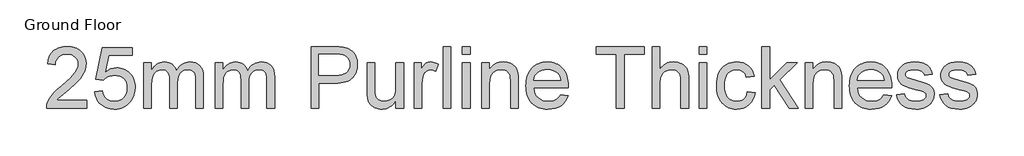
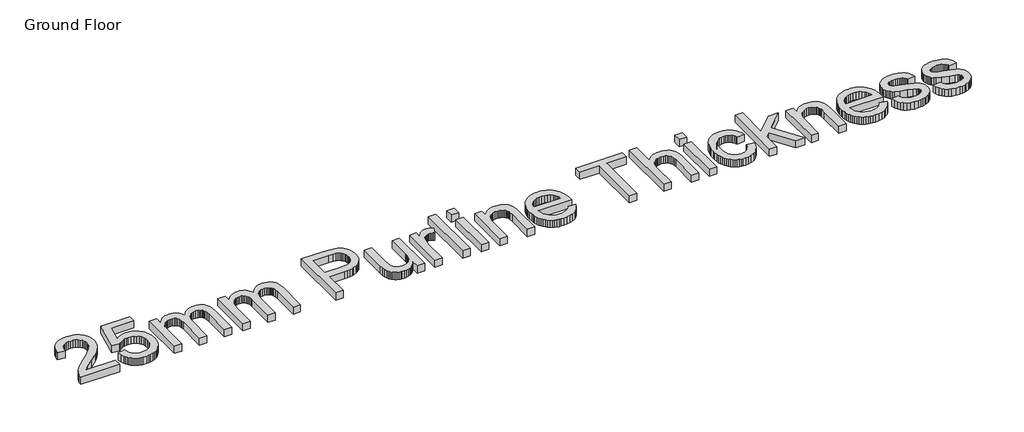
# One storey, part 5 of 5: 1 proxy.
"""IFC4 building model written with IfcOpenShell, lengths in millimetres."""

from ifc_helpers import new_model, si_unit, origin, origin_with_axes, place, context, project, spatial, polyline, outline, extrude, element, save

model = new_model("IFC4")

# Units and contexts
model_context = context("Model", 3, world=origin())
ifc_project = project(units=[si_unit("LENGTHUNIT", "METRE", prefix="MILLI")], contexts=[model_context])

# Site, building, storey
site = spatial("IfcSite", under=ifc_project)
building = spatial("IfcBuilding", under=site)
storey = spatial("IfcBuildingStorey", under=building, Name="Ground Floor", Elevation=0.0)

# Proxy
placement = place(None, origin())
element("IfcBuildingElementProxy", 1, Name="1200mm Arial", ObjectType="1200mm Arial", at=placement, inside=storey, context=model_context, shape_type="SweptSolid", body=[
    extrude(outline(polyline([(-50930.0074937, 10658.042718), (-50930.0074937, 10511.1336271), (-51701.280221, 10511.1336271), (-51698.052238, 10562.8530874), (-51685.498971, 10612.420559), (-51669.4845889, 10652.2951151), (-51649.2738289, 10691.5778743), (-51624.8666911, 10730.2688367), (-51596.2631755, 10768.3680021), (-51561.7416911, 10807.3638296), (-51519.5806471, 10848.7447777), (-51412.3398801, 10938.6620362), (-51325.1484738, 11013.6767734), (-51253.8100505, 11079.473826), (-51198.3246102, 11136.0531939), (-51158.6921528, 11183.4148771), (-51130.9494326, 11225.8807862), (-51111.1332039, 11267.7728317), (-51099.2434667, 11309.0910135), (-51095.280221, 11349.8353317), (-51099.0193012, 11388.1676293), (-51110.236542, 11423.3974766), (-51128.9319433, 11455.5248736), (-51155.1055051, 11484.5498203), (-51187.304635, 11508.5893267), (-51224.0767409, 11525.7604027), (-51265.4218225, 11536.0630483), (-51311.3398801, 11539.4972635), (-51359.7147913, 11536.1437479), (-51402.9787295, 11526.083201), (-51441.1316947, 11509.3156229), (-51474.1736869, 11485.8410135), (-51500.9031791, 11456.4484354), (-51520.1186443, 11421.926951), (-51531.8200825, 11382.2765604), (-51536.0074937, 11337.4972635), (-51682.9165846, 11355.8608999), (-51670.282618, 11431.7005661), (-51660.0853302, 11466.0292681), (-51647.3011727, 11497.9638828), (-51631.9301455, 11527.5044102), (-51613.9722487, 11554.6508502), (-51593.4274822, 11579.4032028), (-51570.295846, 11601.761468), (-51544.8284054, 11621.6001133), (-51517.2762259, 11638.7936058), (-51487.6393074, 11653.3419457), (-51455.9176499, 11665.2451328), (-51386.220118, 11681.116049), (-51308.1836301, 11686.4063544), (-51229.4477458, 11680.5242521), (-51193.3279616, 11673.1716243), (-51159.3736159, 11662.8779453), (-51127.5847087, 11649.6432152), (-51097.9612401, 11633.467434), (-51070.5032101, 11614.3506016), (-51045.2106187, 11592.292718), (-51022.5138635, 11568.055946), (-51002.8433424, 11542.4024482), (-50986.1990553, 11515.3322244), (-50972.5810022, 11486.8452749), (-50961.9891831, 11456.9415994), (-50954.4235981, 11425.6211982), (-50948.3711301, 11358.730218), (-50950.0030548, 11323.446571), (-50954.8988289, 11288.4677891), (-50963.0584525, 11253.7938722), (-50974.4819255, 11219.4248203), (-50989.6982785, 11184.75987), (-51009.236542, 11149.1982578), (-51061.2788005, 11075.3850476), (-51097.1901109, 11034.4524304), (-51144.2379624, 10987.2611129), (-51271.7432891, 10874.1023771), (-51440.7461301, 10732.7884567), (-51477.4016698, 10695.5231868), (-51507.0273801, 10658.042718), (-50930.0074937, 10658.042718)])), origin_with_axes(), (0.0, 0.0, 1.0), 150.0),
    extrude(outline(polyline([(-50783.0984028, 10823.3154453), (-50636.1893119, 10841.6790817), (-50625.2141698, 10794.4518977), (-50609.217721, 10753.4834141), (-50588.1999653, 10718.7736307), (-50562.1609028, 10690.3225476), (-50531.1543332, 10668.1660313), (-50495.2340562, 10652.3399482), (-50454.4000718, 10642.8442983), (-50408.6523801, 10639.6790817), (-50352.7006755, 10644.0816918), (-50303.3484028, 10657.289522), (-50260.5955619, 10679.3025725), (-50224.4421528, 10710.120843), (-50195.6951713, 10748.2200085), (-50175.161613, 10792.0757436), (-50162.8414781, 10841.6880483), (-50158.7347664, 10897.0569226), (-50162.5814461, 10949.3861129), (-50174.1214852, 10995.904934), (-50193.3548836, 11036.6133857), (-50220.2816414, 11071.511468), (-50254.9914248, 11099.5052536), (-50297.5738999, 11119.5008146), (-50348.0290668, 11131.4981513), (-50406.3569255, 11135.4972635), (-50443.6849617, 11133.9012053), (-50477.6236159, 11129.1130305), (-50508.1728879, 11121.1327394), (-50535.3327778, 11109.9603317), (-50581.4212011, 11080.6215533), (-50617.8256755, 11043.6790817), (-50764.7347664, 11062.042718), (-50636.1893119, 11668.042718), (-50066.9165846, 11668.042718), (-50066.9165846, 11521.1336271), (-50517.3995391, 11521.1336271), (-50580.2376073, 11197.4745362), (-50528.3926144, 11234.6322067), (-50475.2922948, 11261.1733999), (-50420.9366485, 11277.0981158), (-50365.3256755, 11282.4063544), (-50328.8248099, 11280.7609798), (-50293.78102, 11275.8248558), (-50260.1943057, 11267.5979826), (-50228.064667, 11256.0803601), (-50197.392104, 11241.2719883), (-50168.1766166, 11223.1728672), (-50140.4182048, 11201.7829968), (-50114.1168687, 11177.1023771), (-50090.1423703, 11149.8348878), (-50069.3644717, 11120.6844084), (-50051.7831728, 11089.6509389), (-50037.3984738, 11056.7344794), (-50026.2103746, 11021.9350298), (-50018.2188751, 10985.2525902), (-50013.4239754, 10946.6871605), (-50011.8256755, 10906.2387408), (-50017.5822451, 10830.130076), (-50034.8519539, 10759.3296499), (-50063.6348019, 10693.8374624), (-50103.9307891, 10633.6535135), (-50133.1799014, 10600.6339379), (-50164.9755335, 10572.0169723), (-50199.3176855, 10547.8026168), (-50236.2063573, 10527.9908715), (-50275.6415491, 10512.5817362), (-50317.6232607, 10501.5752109), (-50362.1514923, 10494.9712958), (-50409.2262437, 10492.7699908), (-50485.03901, 10498.4279276), (-50520.1948827, 10505.5003486), (-50553.5170818, 10515.4017379), (-50585.0056072, 10528.1320957), (-50614.6604589, 10543.6914219), (-50642.481637, 10562.0797165), (-50668.4691414, 10583.2969794), (-50692.1970578, 10606.8500467), (-50713.2394717, 10632.2457543), (-50731.5963831, 10659.4841021), (-50747.267792, 10688.5650902), (-50770.5541024, 10752.2549872), (-50783.0984028, 10823.3154453)])), origin_with_axes(), (0.0, 0.0, 1.0), 150.0),
    extrude(outline(polyline([(-49846.5529482, 10511.1336271), (-49846.5529482, 11374.2245362), (-49699.6438573, 11374.2245362), (-49699.6438573, 11232.1932862), (-49679.1282323, 11266.5802713), (-49655.4563573, 11297.4344084), (-49628.6282323, 11324.7556975), (-49598.6438573, 11348.5441385), (-49565.9874298, 11367.8134034), (-49531.1431471, 11381.5771641), (-49494.1110093, 11389.8354205), (-49454.8910164, 11392.5881726), (-49412.0126428, 11389.7816207), (-49373.1871812, 11381.3619652), (-49338.4146315, 11367.329206), (-49307.6949937, 11347.683343), (-49281.117934, 11322.9803068), (-49258.7731187, 11293.7760277), (-49240.6605477, 11260.0705057), (-49226.780221, 11221.8637408), (-49200.9473907, 11261.8772795), (-49173.2315704, 11296.5556797), (-49143.63276, 11325.8989414), (-49112.1509596, 11349.9070646), (-49078.7861691, 11368.5800494), (-49043.5383886, 11381.9178956), (-49006.407618, 11389.9206033), (-48967.3938573, 11392.5881726), (-48908.5818012, 11388.149696), (-48856.9609738, 11374.8342663), (-48812.5313751, 11352.6418835), (-48775.2930051, 11321.5725476), (-48745.8555938, 11281.2675938), (-48724.8288715, 11231.3683573), (-48712.2128382, 11171.8748381), (-48708.0074937, 11102.7870362), (-48708.0074937, 10511.1336271), (-48854.9165846, 10511.1336271), (-48854.9165846, 11039.6620362), (-48858.3238999, 11112.9372493), (-48868.545846, 11162.3253885), (-48876.741336, 11180.1420611), (-48887.6985448, 11196.1474766), (-48901.4174724, 11210.341635), (-48917.8981187, 11222.7245362), (-48936.5397203, 11232.7671499), (-48956.7415136, 11239.9404453), (-49001.8256755, 11245.6790817), (-49043.457689, 11242.0027678), (-49081.4133886, 11230.973826), (-49115.6927742, 11212.5922564), (-49146.295846, 11186.858059), (-49171.4651464, 11153.0180377), (-49189.4432181, 11110.3189965), (-49200.2300612, 11058.7609354), (-49203.8256755, 10998.3438544), (-49203.8256755, 10511.1336271), (-49350.7347664, 10511.1336271), (-49350.7347664, 11056.0171499), (-49352.8598552, 11100.5274482), (-49359.2351215, 11139.0839112), (-49369.8605654, 11171.6865391), (-49384.7361869, 11198.3353317), (-49404.4537828, 11219.0482223), (-49429.6051499, 11233.8431442), (-49460.1902884, 11242.7200973), (-49496.2091982, 11245.6790817), (-49525.0637792, 11243.7064254), (-49552.8064994, 11237.7884567), (-49579.4373588, 11227.9251754), (-49604.9563573, 11214.1165817), (-49628.1978346, 11196.5061413), (-49647.9961301, 11175.2373203), (-49664.3512437, 11150.3101186), (-49677.2631755, 11121.7245362), (-49687.0547238, 11087.9562479), (-49694.0486869, 11047.4809283), (-49699.6438573, 10946.4091953), (-49699.6438573, 10511.1336271), (-49846.5529482, 10511.1336271)])), origin_with_axes(), (0.0, 0.0, 1.0), 150.0),
    extrude(outline(polyline([(-48487.6438573, 10511.1336271), (-48487.6438573, 11374.2245362), (-48340.7347664, 11374.2245362), (-48340.7347664, 11232.1932862), (-48320.2191414, 11266.5802713), (-48296.5472664, 11297.4344084), (-48269.7191414, 11324.7556975), (-48239.7347664, 11348.5441385), (-48207.0783389, 11367.8134034), (-48172.2340562, 11381.5771641), (-48135.2019184, 11389.8354205), (-48095.9819255, 11392.5881726), (-48053.1035519, 11389.7816207), (-48014.2780903, 11381.3619652), (-47979.5055406, 11367.329206), (-47948.7859028, 11347.683343), (-47922.2088431, 11322.9803068), (-47899.8640278, 11293.7760277), (-47881.7514568, 11260.0705057), (-47867.8711301, 11221.8637408), (-47842.0382998, 11261.8772795), (-47814.3224795, 11296.5556797), (-47784.7236691, 11325.8989414), (-47753.2418687, 11349.9070646), (-47719.8770782, 11368.5800494), (-47684.6292977, 11381.9178956), (-47647.4985271, 11389.9206033), (-47608.4847664, 11392.5881726), (-47549.6727103, 11388.149696), (-47498.0518829, 11374.8342663), (-47453.6222842, 11352.6418835), (-47416.3839141, 11321.5725476), (-47386.9465029, 11281.2675938), (-47365.9197806, 11231.3683573), (-47353.3037472, 11171.8748381), (-47349.0984028, 11102.7870362), (-47349.0984028, 10511.1336271), (-47496.0074937, 10511.1336271), (-47496.0074937, 11039.6620362), (-47499.414809, 11112.9372493), (-47509.6367551, 11162.3253885), (-47517.8322451, 11180.1420611), (-47528.7894539, 11196.1474766), (-47542.5083815, 11210.341635), (-47558.9890278, 11222.7245362), (-47577.6306293, 11232.7671499), (-47597.8324227, 11239.9404453), (-47642.9165846, 11245.6790817), (-47684.5485981, 11242.0027678), (-47722.5042977, 11230.973826), (-47756.7836833, 11212.5922564), (-47787.3867551, 11186.858059), (-47812.5560555, 11153.0180377), (-47830.5341272, 11110.3189965), (-47841.3209703, 11058.7609354), (-47844.9165846, 10998.3438544), (-47844.9165846, 10511.1336271), (-47991.8256755, 10511.1336271), (-47991.8256755, 11056.0171499), (-47993.9507643, 11100.5274482), (-48000.3260306, 11139.0839112), (-48010.9514745, 11171.6865391), (-48025.827096, 11198.3353317), (-48045.5446918, 11219.0482223), (-48070.696059, 11233.8431442), (-48101.2811975, 11242.7200973), (-48137.3001073, 11245.6790817), (-48166.1546883, 11243.7064254), (-48193.8974085, 11237.7884567), (-48220.5282678, 11227.9251754), (-48246.0472664, 11214.1165817), (-48269.2887437, 11196.5061413), (-48289.0870391, 11175.2373203), (-48305.4421528, 11150.3101186), (-48318.3540846, 11121.7245362), (-48328.1456329, 11087.9562479), (-48335.139596, 11047.4809283), (-48340.7347664, 10946.4091953), (-48340.7347664, 10511.1336271), (-48487.6438573, 10511.1336271)])), origin_with_axes(), (0.0, 0.0, 1.0), 150.0),
    extrude(outline(polyline([(-46651.280221, 10511.1336271), (-46651.280221, 11686.4063544), (-46215.717721, 11686.4063544), (-46114.2873232, 11683.6087692), (-46040.1154482, 11675.2160135), (-45999.2366308, 11666.4018267), (-45961.8189284, 11654.3058573), (-45927.862341, 11638.9281051), (-45897.3668687, 11620.2685703), (-45870.0097132, 11597.9416882), (-45845.4680761, 11571.5618942), (-45823.7419575, 11541.1291882), (-45804.8313573, 11506.6435703), (-45789.5163715, 11469.2438011), (-45778.577096, 11430.0686413), (-45772.0135306, 11389.1180909), (-45769.8256755, 11346.3921499), (-45775.7346776, 11274.2467308), (-45783.1209303, 11240.3394599), (-45793.461684, 11207.8758146), (-45806.7569388, 11176.8557951), (-45823.0066947, 11147.2794013), (-45842.2109516, 11119.1466332), (-45864.3697096, 11092.4574908), (-45890.3841139, 11068.1131193), (-45921.1553097, 11047.0146641), (-45956.6832971, 11029.162125), (-45996.9680761, 11014.5555021), (-46042.0096466, 11003.1947955), (-46091.8080086, 10995.080005), (-46146.3631622, 10990.2111307), (-46205.6751073, 10988.5881726), (-46504.3711301, 10988.5881726), (-46504.3711301, 10511.1336271), (-46651.280221, 10511.1336271)]), holes=[polyline([(-46504.3711301, 11135.4972635), (-46197.0671528, 11135.4972635), (-46126.4101926, 11138.8687124), (-46066.8001073, 11148.983059), (-46018.2368971, 11165.8403033), (-45980.7205619, 11189.4404453), (-45952.7267764, 11219.1558217), (-45932.7312153, 11254.3587692), (-45920.7338786, 11295.0492877), (-45916.7347664, 11341.2273771), (-45919.0929873, 11375.5157294), (-45926.1676499, 11407.2216953), (-45937.9587543, 11436.3452749), (-45954.4663005, 11462.886468), (-45974.8115597, 11485.9844794), (-45998.1158034, 11504.7785135), (-46024.3790313, 11519.2685703), (-46053.6012437, 11529.4546499), (-46110.2702778, 11536.9866101), (-46200.5103346, 11539.4972635), (-46504.3711301, 11539.4972635), (-46504.3711301, 11135.4972635)])]), origin_with_axes(), (0.0, 0.0, 1.0), 150.0),
    extrude(outline(polyline([(-45035.280221, 10511.1336271), (-45035.280221, 10659.4773771), (-45060.7633531, 10620.4053335), (-45088.4343403, 10586.5428956), (-45118.2931826, 10557.8900636), (-45150.3398801, 10534.4468374), (-45184.5744326, 10516.213217), (-45220.9968403, 10503.1892024), (-45259.6071031, 10495.3747937), (-45300.405221, 10492.7699908), (-45336.8007288, 10494.5991811), (-45371.9588431, 10500.0867521), (-45405.879564, 10509.2327038), (-45438.5628914, 10522.0370362), (-45468.5651997, 10537.6030874), (-45494.442863, 10555.0341953), (-45516.1958815, 10574.3303601), (-45533.8242551, 10595.4915817), (-45548.2336123, 10618.8227252), (-45560.3295818, 10644.6286555), (-45577.5813573, 10703.6648771), (-45584.0373232, 10759.3296499), (-45586.1893119, 10840.2444226), (-45586.1893119, 11374.2245362), (-45439.280221, 11374.2245362), (-45439.280221, 10909.3949908), (-45437.0564994, 10816.4290817), (-45430.3853346, 10759.6165817), (-45421.5890811, 10733.1381548), (-45408.9730477, 10709.6545788), (-45392.5372345, 10689.1658537), (-45372.2816414, 10671.6719794), (-45348.8159987, 10657.6750867), (-45322.7500363, 10647.6773061), (-45294.0837543, 10641.6786378), (-45262.8171528, 10639.6790817), (-45230.6180228, 10641.7234709), (-45199.4410874, 10647.8566385), (-45169.2863467, 10658.0785845), (-45140.1538005, 10672.389309), (-45113.621574, 10690.2239148), (-45091.267792, 10711.017505), (-45073.0924546, 10734.7700796), (-45059.0955619, 10761.4816385), (-45048.6763502, 10792.8558395), (-45041.2340562, 10830.5963402), (-45036.7686798, 10874.7031406), (-45035.280221, 10925.1762408), (-45035.280221, 11374.2245362), (-44888.3711301, 11374.2245362), (-44888.3711301, 10511.1336271), (-45035.280221, 10511.1336271)])), origin_with_axes(), (0.0, 0.0, 1.0), 150.0),
    extrude(outline(polyline([(-44686.3711301, 10511.1336271), (-44686.3711301, 11374.2245362), (-44557.8256755, 11374.2245362), (-44557.8256755, 11246.5398771), (-44533.6158034, 11287.3559283), (-44510.3384596, 11320.5682862), (-44487.9936443, 11346.176951), (-44466.5813573, 11364.1819226), (-44445.1332039, 11376.609657), (-44422.6807891, 11385.4866101), (-44399.224113, 11390.812782), (-44374.7631755, 11392.5881726), (-44338.3228346, 11389.7547209), (-44301.5955619, 11381.2543658), (-44264.5813573, 11367.0871073), (-44227.280221, 11347.2529453), (-44276.3455619, 11215.5512408), (-44302.1694255, 11228.7321712), (-44327.9932891, 11238.1471215), (-44353.8171528, 11243.7960916), (-44379.6410164, 11245.6790817), (-44402.1561975, 11243.8678246), (-44423.5057181, 11238.4340533), (-44443.6895782, 11229.3777678), (-44462.7077778, 11216.698968), (-44479.8429873, 11200.8101186), (-44494.3778772, 11182.123684), (-44506.3124475, 11160.6396641), (-44515.6466982, 11136.358059), (-44526.0659099, 11096.2593374), (-44533.5082039, 11054.295559), (-44539.4620391, 10964.7728317), (-44539.4620391, 10511.1336271), (-44686.3711301, 10511.1336271)])), origin_with_axes(), (0.0, 0.0, 1.0), 150.0),
    extrude(outline(polyline([(-44135.4620391, 10511.1336271), (-44135.4620391, 11686.4063544), (-43988.5529482, 11686.4063544), (-43988.5529482, 10511.1336271), (-44135.4620391, 10511.1336271)])), origin_with_axes(), (0.0, 0.0, 1.0), 150.0),
    extrude(outline(polyline([(-43768.1893119, 11539.4972635), (-43768.1893119, 11686.4063544), (-43621.280221, 11686.4063544), (-43621.280221, 11539.4972635), (-43768.1893119, 11539.4972635)])), origin_with_axes(), (0.0, 0.0, 1.0), 150.0),
    extrude(outline(polyline([(-43768.1893119, 10511.1336271), (-43768.1893119, 11374.2245362), (-43621.280221, 11374.2245362), (-43621.280221, 10511.1336271), (-43768.1893119, 10511.1336271)])), origin_with_axes(), (0.0, 0.0, 1.0), 150.0),
    extrude(outline(polyline([(-43400.9165846, 10511.1336271), (-43400.9165846, 11374.2245362), (-43254.0074937, 11374.2245362), (-43254.0074937, 11253.7131726), (-43229.7707217, 11286.2620007), (-43202.9694965, 11314.4709851), (-43173.6038183, 11338.3401257), (-43141.6736869, 11357.8694226), (-43107.1791024, 11373.0588757), (-43070.1200647, 11383.9084851), (-43030.496574, 11390.4182507), (-42988.3086301, 11392.5881726), (-42951.3392586, 11390.8396818), (-42915.8942124, 11385.5942095), (-42881.9734916, 11376.8517557), (-42849.577096, 11364.6123203), (-42819.9334525, 11349.5304666), (-42794.270988, 11332.2607578), (-42772.5897025, 11312.8031939), (-42754.889596, 11291.1577749), (-42728.1690704, 11241.4109709), (-42710.8455619, 11183.1279453), (-42705.0351926, 11127.3914396), (-42703.0984028, 11041.0966953), (-42703.0984028, 10511.1336271), (-42850.0074937, 10511.1336271), (-42850.0074937, 11021.2983999), (-42854.239738, 11097.2635987), (-42859.5300434, 11127.0148416), (-42866.936471, 11151.2785135), (-42877.0239177, 11171.7134389), (-42890.3572806, 11189.9784425), (-42906.9365597, 11206.0735242), (-42926.7617551, 11219.998684), (-42949.1514035, 11231.233858), (-42973.424042, 11239.2589823), (-42999.5796705, 11244.0740568), (-43027.6182891, 11245.6790817), (-43072.2272203, 11242.0745007), (-43113.6619681, 11231.2607578), (-43151.9225328, 11213.237853), (-43187.0089141, 11188.0057862), (-43202.7117062, 11171.9689876), (-43216.3207927, 11152.6952394), (-43227.8361736, 11130.1845416), (-43237.2578488, 11104.4368942), (-43249.8200825, 11043.2307507), (-43254.0074937, 10969.076809), (-43254.0074937, 10511.1336271), (-43400.9165846, 10511.1336271)])), origin_with_axes(), (0.0, 0.0, 1.0), 150.0),
    extrude(outline(polyline([(-41896.8199937, 10768.2245362), (-41752.780221, 10749.8608999), (-41774.8650043, 10692.1696712), (-41804.6790136, 10641.3289396), (-41842.2222487, 10597.3387053), (-41887.4947096, 10560.198968), (-41940.0301322, 10530.6987905), (-41999.3622522, 10509.6272351), (-42065.4910697, 10496.9843019), (-42138.4165846, 10492.7699908), (-42185.2357874, 10494.5879728), (-42229.5712366, 10500.041919), (-42271.4229323, 10509.1318294), (-42310.7908744, 10521.8577038), (-42347.6750629, 10538.2195424), (-42382.075498, 10558.2173452), (-42413.9921794, 10581.851112), (-42443.4251073, 10609.120843), (-42469.8542178, 10639.6723567), (-42492.7594468, 10673.1514716), (-42512.1407945, 10709.5581877), (-42527.9982607, 10748.892505), (-42540.3318456, 10791.1544235), (-42549.1415491, 10836.3439432), (-42554.4273712, 10884.4610641), (-42556.1893119, 10935.5057862), (-42554.4094379, 10988.2877908), (-42549.0698161, 11038.0301115), (-42540.1704465, 11084.7327482), (-42527.7113289, 11128.395701), (-42511.6924635, 11169.0189698), (-42492.1138502, 11206.6025547), (-42468.9754891, 11241.1464556), (-42442.2773801, 11272.6506726), (-42412.741336, 11300.7610242), (-42381.0891698, 11325.1233288), (-42347.3208815, 11345.7375867), (-42311.436471, 11362.6037976), (-42273.4359383, 11375.7219617), (-42233.3192835, 11385.0920788), (-42191.0865065, 11390.7141492), (-42146.7376073, 11392.5881726), (-42103.8390589, 11390.7186325), (-42062.9445498, 11385.1100121), (-42024.0540802, 11375.7623114), (-41987.1676499, 11362.6755305), (-41952.2852591, 11345.8496694), (-41919.4069078, 11325.284728), (-41888.5325958, 11300.9807063), (-41859.6623232, 11272.9376044), (-41833.5358362, 11241.5051204), (-41810.8928808, 11207.0329524), (-41791.7334569, 11169.5211005), (-41776.0575647, 11128.9695646), (-41763.8652041, 11085.3783448), (-41755.1563751, 11038.7474411), (-41749.9310777, 10989.0768533), (-41748.1893119, 10936.3665817), (-41749.0501073, 10896.7699908), (-42409.280221, 10896.7699908), (-42400.7708992, 10838.1462337), (-42383.8508886, 10786.8033715), (-42358.520189, 10742.7414041), (-42324.7788005, 10705.9603317), (-42284.4917799, 10676.9622848), (-42239.524184, 10656.2493942), (-42189.8760129, 10643.8216598), (-42135.5472664, 10639.6790817), (-42094.9105477, 10641.5979382), (-42057.358346, 10647.3545078), (-42022.8906613, 10656.9487905), (-41991.5074937, 10670.3807862), (-41963.2088431, 10688.0091598), (-41937.9947096, 10710.192576), (-41915.8650931, 10736.9310348), (-41896.8199937, 10768.2245362)]), holes=[polyline([(-42409.280221, 11043.6790817), (-41895.0984028, 11043.6790817), (-41902.6482963, 11085.2483288), (-41914.9684312, 11121.2941385), (-41932.0588076, 11151.8165107), (-41953.9194255, 11176.8154453), (-41993.9822806, 11206.9432862), (-42039.5685732, 11228.4631726), (-42090.6783034, 11241.3751044), (-42147.311471, 11245.6790817), (-42198.9681649, 11242.2448665), (-42246.3388147, 11231.9422209), (-42289.4234205, 11214.7711449), (-42328.2219823, 11190.7316385), (-42360.7797771, 11160.9355625), (-42385.1420818, 11126.4947777), (-42401.3088964, 11087.4092841), (-42409.280221, 11043.6790817)])]), origin_with_axes(), (0.0, 0.0, 1.0), 150.0),
    extrude(outline(polyline([(-40830.0074937, 10511.1336271), (-40830.0074937, 11539.4972635), (-41215.6438573, 11539.4972635), (-41215.6438573, 11686.4063544), (-40297.4620391, 11686.4063544), (-40297.4620391, 11539.4972635), (-40683.0984028, 11539.4972635), (-40683.0984028, 10511.1336271), (-40830.0074937, 10511.1336271)])), origin_with_axes(), (0.0, 0.0, 1.0), 150.0),
    extrude(outline(polyline([(-40150.5529482, 10511.1336271), (-40150.5529482, 11686.4063544), (-40003.6438573, 11686.4063544), (-40003.6438573, 11254.2870362), (-39977.4927121, 11286.7013651), (-39949.6827423, 11314.7937834), (-39920.2139479, 11338.5642912), (-39889.0863289, 11358.0128885), (-39856.2998854, 11373.1395753), (-39821.8546173, 11383.9443516), (-39785.7505246, 11390.4272173), (-39747.9876073, 11392.5881726), (-39702.0605832, 11390.2299517), (-39659.2539426, 11383.1552891), (-39619.5676855, 11371.3641847), (-39583.0018119, 11354.8566385), (-39550.4888502, 11334.188581), (-39522.9613289, 11309.9159425), (-39500.419248, 11282.038723), (-39482.8626073, 11250.5569226), (-39469.6816769, 11213.5247848), (-39460.2667266, 11168.9965533), (-39454.6177565, 11116.972228), (-39452.7347664, 11057.451809), (-39452.7347664, 10511.1336271), (-39599.6438573, 10511.1336271), (-39599.6438573, 11042.2444226), (-39602.5669752, 11091.8477607), (-39611.3363289, 11134.2060703), (-39625.9519184, 11169.3193516), (-39646.4137437, 11197.1876044), (-39672.2376073, 11218.4026257), (-39702.9393119, 11233.5562124), (-39738.5188573, 11242.6483644), (-39778.9762437, 11245.6790817), (-39810.4939106, 11243.6346925), (-39841.0611159, 11237.5015249), (-39870.6778595, 11227.2795788), (-39899.3441414, 11212.9688544), (-39925.5087366, 11195.1611484), (-39947.6204198, 11174.4482578), (-39965.6791911, 11150.8301825), (-39979.6850505, 11124.3069226), (-39990.1670285, 11093.6590178), (-39997.6541556, 11057.6670078), (-40002.1464319, 11016.3308928), (-40003.6438573, 10969.6506726), (-40003.6438573, 10511.1336271), (-40150.5529482, 10511.1336271)])), origin_with_axes(), (0.0, 0.0, 1.0), 150.0),
    extrude(outline(polyline([(-39250.7347664, 11539.4972635), (-39250.7347664, 11686.4063544), (-39103.8256755, 11686.4063544), (-39103.8256755, 11539.4972635), (-39250.7347664, 11539.4972635)])), origin_with_axes(), (0.0, 0.0, 1.0), 150.0),
    extrude(outline(polyline([(-39250.7347664, 10511.1336271), (-39250.7347664, 11374.2245362), (-39103.8256755, 11374.2245362), (-39103.8256755, 10511.1336271), (-39250.7347664, 10511.1336271)])), origin_with_axes(), (0.0, 0.0, 1.0), 150.0),
    extrude(outline(polyline([(-38332.5529482, 10823.3154453), (-38185.6438573, 10804.951809), (-38201.622373, 10735.630875), (-38226.6033744, 10674.2902323), (-38260.5868616, 10620.9298807), (-38303.5728346, 10575.5498203), (-38353.7500363, 10539.3336449), (-38409.3072096, 10513.4649482), (-38470.2443545, 10497.9437301), (-38536.561471, 10492.7699908), (-38578.8233895, 10494.5745229), (-38618.9557359, 10499.9881193), (-38656.9585102, 10509.01078), (-38692.8317124, 10521.642505), (-38726.5753426, 10537.8832942), (-38758.1894007, 10557.7331477), (-38787.6738866, 10581.1920655), (-38815.0288005, 10608.2600476), (-38839.6757954, 10638.6994785), (-38861.0365242, 10672.2727429), (-38879.1109871, 10708.9798407), (-38893.899184, 10748.820772), (-38905.401115, 10791.7955368), (-38913.6167799, 10837.904135), (-38918.5461789, 10887.1465666), (-38920.1893119, 10939.5228317), (-38917.38276, 11007.068375), (-38908.9631045, 11070.2561413), (-38894.9303453, 11129.0861307), (-38875.2844823, 11183.558343), (-38849.8910164, 11232.5788509), (-38818.6154482, 11275.0537266), (-38781.4577778, 11310.9829702), (-38738.4180051, 11340.3665817), (-38691.4418865, 11363.2135277), (-38642.4751784, 11379.5327749), (-38591.5178808, 11389.3243232), (-38538.5699937, 11392.5881726), (-38473.3916379, 11388.1048629), (-38414.4361159, 11374.654934), (-38361.7034276, 11352.2383857), (-38315.1935732, 11320.855218), (-38275.6956151, 11281.2227607), (-38243.9986159, 11234.058343), (-38220.1025754, 11179.3619652), (-38204.0074937, 11117.1336271), (-38350.9165846, 11098.7699908), (-38362.3848907, 11133.0852429), (-38377.5653772, 11162.8633857), (-38396.4580441, 11188.104419), (-38419.0628914, 11208.808343), (-38444.8060555, 11224.9392912), (-38473.1136727, 11236.461397), (-38503.985743, 11243.3746605), (-38537.4222664, 11245.6790817), (-38587.3394362, 11241.1419723), (-38632.3608318, 11227.5306442), (-38672.4864532, 11204.8450973), (-38707.7163005, 11173.0853317), (-38723.0828444, 11153.6188011), (-38736.4005157, 11131.5160845), (-38756.8892409, 11079.402093), (-38769.1824759, 11016.7433573), (-38773.280221, 10943.5398771), (-38769.2721421, 10869.2335029), (-38757.2479056, 10805.8484709), (-38737.2075115, 10753.3847813), (-38724.1812552, 10731.2484398), (-38709.1509596, 10711.842434), (-38674.6205086, 10680.2709673), (-38635.158417, 10657.7199198), (-38590.7646847, 10644.1892912), (-38541.4393119, 10639.6790817), (-38501.6902884, 10642.4946002), (-38465.3665136, 10650.9411555), (-38432.4679873, 10665.0187479), (-38402.9947096, 10684.7273771), (-38377.7716095, 10710.2822422), (-38357.6236159, 10741.8985419), (-38342.5507288, 10779.5762763), (-38332.5529482, 10823.3154453)])), origin_with_axes(), (0.0, 0.0, 1.0), 150.0),
    extrude(outline(polyline([(-38057.0984028, 10511.1336271), (-38057.0984028, 11686.4063544), (-37910.1893119, 11686.4063544), (-37910.1893119, 11054.8694226), (-37580.7915846, 11374.2245362), (-37377.6438573, 11374.2245362), (-37711.0586301, 11050.8523771), (-37359.280221, 10511.1336271), (-37530.8654482, 10511.1336271), (-37816.3626073, 10948.7046499), (-37910.1893119, 10857.7472635), (-37910.1893119, 10511.1336271), (-38057.0984028, 10511.1336271)])), origin_with_axes(), (0.0, 0.0, 1.0), 150.0),
    extrude(outline(polyline([(-37230.7347664, 10511.1336271), (-37230.7347664, 11374.2245362), (-37083.8256755, 11374.2245362), (-37083.8256755, 11253.7131726), (-37059.5889035, 11286.2620007), (-37032.7876784, 11314.4709851), (-37003.4220001, 11338.3401257), (-36971.4918687, 11357.8694226), (-36936.9972842, 11373.0588757), (-36899.9382465, 11383.9084851), (-36860.3147558, 11390.4182507), (-36818.1268119, 11392.5881726), (-36781.1574404, 11390.8396818), (-36745.7123943, 11385.5942095), (-36711.7916734, 11376.8517557), (-36679.3952778, 11364.6123203), (-36649.7516343, 11349.5304666), (-36624.0891698, 11332.2607578), (-36602.4078843, 11312.8031939), (-36584.7077778, 11291.1577749), (-36557.9872522, 11241.4109709), (-36540.6637437, 11183.1279453), (-36534.8533744, 11127.3914396), (-36532.9165846, 11041.0966953), (-36532.9165846, 10511.1336271), (-36679.8256755, 10511.1336271), (-36679.8256755, 11021.2983999), (-36684.0579198, 11097.2635987), (-36689.3482252, 11127.0148416), (-36696.7546528, 11151.2785135), (-36706.8420995, 11171.7134389), (-36720.1754624, 11189.9784425), (-36736.7547416, 11206.0735242), (-36756.5799369, 11219.998684), (-36778.9695853, 11231.233858), (-36803.2422238, 11239.2589823), (-36829.3978524, 11244.0740568), (-36857.436471, 11245.6790817), (-36902.0454021, 11242.0745007), (-36943.4801499, 11231.2607578), (-36981.7407146, 11213.237853), (-37016.827096, 11188.0057862), (-37032.529888, 11171.9689876), (-37046.1389745, 11152.6952394), (-37057.6543554, 11130.1845416), (-37067.0760306, 11104.4368942), (-37079.6382643, 11043.2307507), (-37083.8256755, 10969.076809), (-37083.8256755, 10511.1336271), (-37230.7347664, 10511.1336271)])), origin_with_axes(), (0.0, 0.0, 1.0), 150.0),
    extrude(outline(polyline([(-35726.6381755, 10768.2245362), (-35582.5984028, 10749.8608999), (-35604.6831862, 10692.1696712), (-35634.4971954, 10641.3289396), (-35672.0404305, 10597.3387053), (-35717.3128914, 10560.198968), (-35769.848314, 10530.6987905), (-35829.180434, 10509.6272351), (-35895.3092515, 10496.9843019), (-35968.2347664, 10492.7699908), (-36015.0539692, 10494.5879728), (-36059.3894184, 10500.041919), (-36101.2411141, 10509.1318294), (-36140.6090562, 10521.8577038), (-36177.4932448, 10538.2195424), (-36211.8936798, 10558.2173452), (-36243.8103612, 10581.851112), (-36273.2432891, 10609.120843), (-36299.6723996, 10639.6723567), (-36322.5776286, 10673.1514716), (-36341.9589763, 10709.5581877), (-36357.8164426, 10748.892505), (-36370.1500274, 10791.1544235), (-36378.9597309, 10836.3439432), (-36384.245553, 10884.4610641), (-36386.0074937, 10935.5057862), (-36384.2276198, 10988.2877908), (-36378.887998, 11038.0301115), (-36369.9886283, 11084.7327482), (-36357.5295107, 11128.395701), (-36341.5106453, 11169.0189698), (-36321.932032, 11206.6025547), (-36298.7936709, 11241.1464556), (-36272.0955619, 11272.6506726), (-36242.5595178, 11300.7610242), (-36210.9073516, 11325.1233288), (-36177.1390633, 11345.7375867), (-36141.2546528, 11362.6037976), (-36103.2541201, 11375.7219617), (-36063.1374653, 11385.0920788), (-36020.9046883, 11390.7141492), (-35976.5557891, 11392.5881726), (-35933.6572407, 11390.7186325), (-35892.7627316, 11385.1100121), (-35853.872262, 11375.7623114), (-35816.9858318, 11362.6755305), (-35782.103441, 11345.8496694), (-35749.2250896, 11325.284728), (-35718.3507776, 11300.9807063), (-35689.4805051, 11272.9376044), (-35663.354018, 11241.5051204), (-35640.7110626, 11207.0329524), (-35621.5516388, 11169.5211005), (-35605.8757465, 11128.9695646), (-35593.6833859, 11085.3783448), (-35584.9745569, 11038.7474411), (-35579.7492595, 10989.0768533), (-35578.0074937, 10936.3665817), (-35578.8682891, 10896.7699908), (-36239.0984028, 10896.7699908), (-36230.5890811, 10838.1462337), (-36213.6690704, 10786.8033715), (-36188.3383708, 10742.7414041), (-36154.5969823, 10705.9603317), (-36114.3099617, 10676.9622848), (-36069.3423659, 10656.2493942), (-36019.6941947, 10643.8216598), (-35965.3654482, 10639.6790817), (-35924.7287295, 10641.5979382), (-35887.1765278, 10647.3545078), (-35852.7088431, 10656.9487905), (-35821.3256755, 10670.3807862), (-35793.0270249, 10688.0091598), (-35767.8128914, 10710.192576), (-35745.6832749, 10736.9310348), (-35726.6381755, 10768.2245362)]), holes=[polyline([(-36239.0984028, 11043.6790817), (-35724.9165846, 11043.6790817), (-35732.4664781, 11085.2483288), (-35744.786613, 11121.2941385), (-35761.8769894, 11151.8165107), (-35783.7376073, 11176.8154453), (-35823.8004624, 11206.9432862), (-35869.3867551, 11228.4631726), (-35920.4964852, 11241.3751044), (-35977.1296528, 11245.6790817), (-36028.7863467, 11242.2448665), (-36076.1569965, 11231.9422209), (-36119.2416024, 11214.7711449), (-36158.0401641, 11190.7316385), (-36190.5979589, 11160.9355625), (-36214.9602636, 11126.4947777), (-36231.1270782, 11087.4092841), (-36239.0984028, 11043.6790817)])]), origin_with_axes(), (0.0, 0.0, 1.0), 150.0),
    extrude(outline(polyline([(-35486.1893119, 10768.2245362), (-35339.280221, 10786.5881726), (-35330.4032678, 10753.0888828), (-35316.1104766, 10723.7501044), (-35296.4018474, 10698.5718374), (-35271.2773801, 10677.5540817), (-35240.6653417, 10660.9837692), (-35204.4939994, 10649.1478317), (-35162.7633531, 10642.0462692), (-35115.4734028, 10639.6790817), (-35068.2372522, 10641.8490036), (-35027.5288005, 10648.3587692), (-34993.3480477, 10659.2083786), (-34965.6949937, 10674.3978317), (-34944.3544397, 10692.5104027), (-34929.1111869, 10712.1293658), (-34919.9652352, 10733.2547209), (-34916.9165846, 10755.886468), (-34919.9831684, 10775.72063), (-34929.1829198, 10793.3310703), (-34944.5158389, 10808.7177891), (-34965.9819255, 10821.8807862), (-35021.0011016, 10840.5313544), (-35117.1949937, 10863.7728317), (-35251.2638857, 10902.5444936), (-35338.4194255, 10935.6492521), (-35368.3410342, 10952.2464645), (-35394.4069965, 10971.7667948), (-35416.6173126, 10994.2102429), (-35434.9719823, 11019.576809), (-35449.3454731, 11047.1043303), (-35459.6122522, 11076.0306442), (-35465.7723197, 11106.3557507), (-35467.8256755, 11138.0796499), (-35466.1758176, 11167.0866634), (-35461.2262437, 11194.9997493), (-35452.9769539, 11221.8189077), (-35441.4279482, 11247.5441385), (-35427.0275576, 11271.6553779), (-35410.224113, 11293.6325618), (-35391.0176144, 11313.4756904), (-35369.4080619, 11331.1847635), (-35328.8430761, 11354.820772), (-35276.0117551, 11374.654934), (-35214.9311443, 11388.1048629), (-35149.6182891, 11392.5881726), (-35100.2480832, 11390.7858821), (-35053.9982607, 11385.3790107), (-35010.8688218, 11376.3675582), (-34970.8597664, 11363.7515249), (-34934.9215562, 11348.0599411), (-34904.0046528, 11329.8218374), (-34878.1090562, 11309.0372138), (-34857.2347664, 11285.7060703), (-34840.3057891, 11259.0124446), (-34826.2461301, 11228.1403743), (-34815.0557891, 11193.0898594), (-34806.7347664, 11153.8608999), (-34953.6438573, 11135.4972635), (-34960.646787, 11160.0389006), (-34972.1868261, 11181.7291527), (-34988.2639745, 11200.5680199), (-35008.8782323, 11216.5555021), (-35034.1192657, 11229.2970682), (-35064.0767409, 11238.3981868), (-35098.7506578, 11243.858858), (-35138.1410164, 11245.6790817), (-35183.8349085, 11243.9395575), (-35222.498971, 11238.7209851), (-35254.1332039, 11230.0233644), (-35278.7376073, 11217.8466953), (-35297.1909099, 11203.3566385), (-35310.3718403, 11187.7188544), (-35318.2803985, 11170.933343), (-35320.9165846, 11153.0001044), (-35316.5408744, 11130.4042237), (-35303.4137437, 11110.2472635), (-35280.9613289, 11092.2422919), (-35248.6097664, 11077.823968), (-35122.0728346, 11046.5483999), (-34992.2720534, 11008.1712692), (-34906.4435732, 10977.3978317), (-34876.2439994, 10962.3877109), (-34849.4876073, 10944.3289396), (-34826.1743971, 10923.2215178), (-34806.3043687, 10899.0654453), (-34790.4244859, 10871.8248558), (-34779.0817124, 10841.4638828), (-34772.2760484, 10807.9825263), (-34770.0074937, 10771.3807862), (-34772.6705796, 10734.617647), (-34780.6598374, 10698.9305021), (-34793.9752671, 10664.3193516), (-34812.6168687, 10630.7841953), (-34836.2797771, 10599.6610597), (-34864.6591272, 10572.2859709), (-34897.7549191, 10548.658929), (-34935.5671528, 10528.779934), (-34977.064667, 10513.0255838), (-35021.2163005, 10501.7724766), (-35068.0220534, 10495.0206122), (-35117.4819255, 10492.7699908), (-35196.5495747, 10497.1098345), (-35265.6104766, 10510.1293658), (-35324.6646315, 10531.8285845), (-35373.7120391, 10562.2074908), (-35413.7748943, 10601.1226186), (-35445.8753914, 10648.4305021), (-35470.0135306, 10704.1311413), (-35486.1893119, 10768.2245362)])), origin_with_axes(), (0.0, 0.0, 1.0), 150.0),
    extrude(outline(polyline([(-34659.8256755, 10768.2245362), (-34512.9165846, 10786.5881726), (-34504.0396315, 10753.0888828), (-34489.7468403, 10723.7501044), (-34470.038211, 10698.5718374), (-34444.9137437, 10677.5540817), (-34414.3017053, 10660.9837692), (-34378.130363, 10649.1478317), (-34336.3997167, 10642.0462692), (-34289.1097664, 10639.6790817), (-34241.8736159, 10641.8490036), (-34201.1651641, 10648.3587692), (-34166.9844113, 10659.2083786), (-34139.3313573, 10674.3978317), (-34117.9908034, 10692.5104027), (-34102.7475505, 10712.1293658), (-34093.6015988, 10733.2547209), (-34090.5529482, 10755.886468), (-34093.619532, 10775.72063), (-34102.8192835, 10793.3310703), (-34118.1522025, 10808.7177891), (-34139.6182891, 10821.8807862), (-34194.6374653, 10840.5313544), (-34290.8313573, 10863.7728317), (-34424.9002494, 10902.5444936), (-34512.0557891, 10935.6492521), (-34541.9773978, 10952.2464645), (-34568.0433602, 10971.7667948), (-34590.2536762, 10994.2102429), (-34608.608346, 11019.576809), (-34622.9818367, 11047.1043303), (-34633.2486159, 11076.0306442), (-34639.4086833, 11106.3557507), (-34641.4620391, 11138.0796499), (-34639.8121812, 11167.0866634), (-34634.8626073, 11194.9997493), (-34626.6133176, 11221.8189077), (-34615.0643119, 11247.5441385), (-34600.6639213, 11271.6553779), (-34583.8604766, 11293.6325618), (-34564.6539781, 11313.4756904), (-34543.0444255, 11331.1847635), (-34502.4794397, 11354.820772), (-34449.6481187, 11374.654934), (-34388.5675079, 11388.1048629), (-34323.2546528, 11392.5881726), (-34273.8844468, 11390.7858821), (-34227.6346244, 11385.3790107), (-34184.5051855, 11376.3675582), (-34144.4961301, 11363.7515249), (-34108.5579198, 11348.0599411), (-34077.6410164, 11329.8218374), (-34051.7454198, 11309.0372138), (-34030.8711301, 11285.7060703), (-34013.9421528, 11259.0124446), (-33999.8824937, 11228.1403743), (-33988.6921528, 11193.0898594), (-33980.3711301, 11153.8608999), (-34127.280221, 11135.4972635), (-34134.2831507, 11160.0389006), (-34145.8231897, 11181.7291527), (-34161.9003382, 11200.5680199), (-34182.514596, 11216.5555021), (-34207.7556293, 11229.2970682), (-34237.7131045, 11238.3981868), (-34272.3870214, 11243.858858), (-34311.7773801, 11245.6790817), (-34357.4712721, 11243.9395575), (-34396.1353346, 11238.7209851), (-34427.7695676, 11230.0233644), (-34452.373971, 11217.8466953), (-34470.8272735, 11203.3566385), (-34484.0082039, 11187.7188544), (-34491.9167622, 11170.933343), (-34494.5529482, 11153.0001044), (-34490.177238, 11130.4042237), (-34477.0501073, 11110.2472635), (-34454.5976926, 11092.2422919), (-34422.2461301, 11077.823968), (-34295.7091982, 11046.5483999), (-34165.908417, 11008.1712692), (-34080.0799369, 10977.3978317), (-34049.880363, 10962.3877109), (-34023.123971, 10944.3289396), (-33999.8107607, 10923.2215178), (-33979.9407323, 10899.0654453), (-33964.0608495, 10871.8248558), (-33952.7180761, 10841.4638828), (-33945.912412, 10807.9825263), (-33943.6438573, 10771.3807862), (-33946.3069433, 10734.617647), (-33954.2962011, 10698.9305021), (-33967.6116308, 10664.3193516), (-33986.2532323, 10630.7841953), (-34009.9161407, 10599.6610597), (-34038.2954909, 10572.2859709), (-34071.3912828, 10548.658929), (-34109.2035164, 10528.779934), (-34150.7010306, 10513.0255838), (-34194.8526641, 10501.7724766), (-34241.658417, 10495.0206122), (-34291.1182891, 10492.7699908), (-34370.1859383, 10497.1098345), (-34439.2468403, 10510.1293658), (-34498.3009951, 10531.8285845), (-34547.3484028, 10562.2074908), (-34587.4112579, 10601.1226186), (-34619.5117551, 10648.4305021), (-34643.6498943, 10704.1311413), (-34659.8256755, 10768.2245362)])), origin_with_axes(), (0.0, 0.0, 1.0), 150.0),
])

save(model, "model.ifc")
